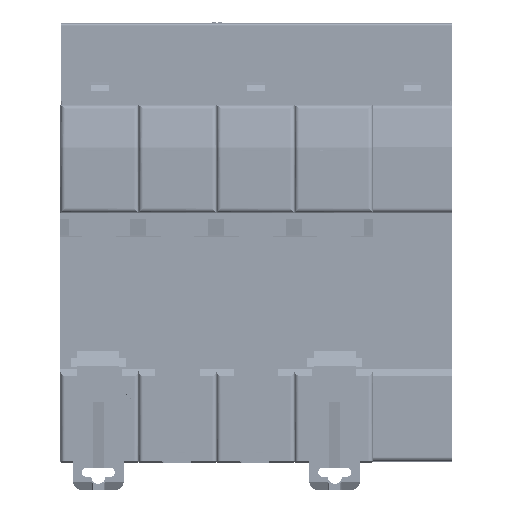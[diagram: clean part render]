
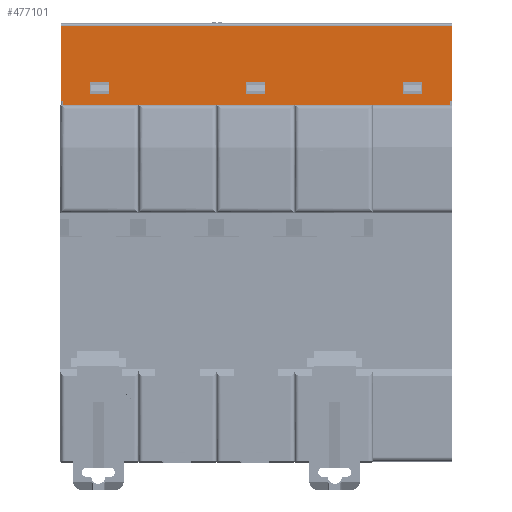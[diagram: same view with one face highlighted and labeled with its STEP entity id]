
A CAD part, top view. The second image highlights one B-rep face of the part: STEP entity #477101.
In plain terms, the highlighted planar face has unit normal (0, 0, 1).
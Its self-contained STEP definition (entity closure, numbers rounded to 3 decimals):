
#19079=DIRECTION('',(-1.,0.,0.));
#19080=VECTOR('',#19079,87.8);
#19081=CARTESIAN_POINT('',(88.35,0.,3.6));
#19082=LINE('',#19081,#19080);
#135087=DIRECTION('',(0.,-1.,0.));
#135088=VECTOR('',#135087,17.);
#135089=CARTESIAN_POINT('',(88.85,18.,3.6));
#135090=LINE('',#135089,#135088);
#135129=DIRECTION('',(1.,0.,0.));
#135130=VECTOR('',#135129,0.5);
#135131=CARTESIAN_POINT('',(88.35,1.,3.6));
#135132=LINE('',#135131,#135130);
#135137=DIRECTION('',(0.,1.,0.));
#135138=VECTOR('',#135137,1.);
#135139=CARTESIAN_POINT('',(0.55,0.,3.6));
#135140=LINE('',#135139,#135138);
#135141=DIRECTION('',(0.,-1.,0.));
#135142=VECTOR('',#135141,17.);
#135143=CARTESIAN_POINT('',(0.05,18.,3.6));
#135144=LINE('',#135143,#135142);
#135145=DIRECTION('',(1.,0.,0.));
#135146=VECTOR('',#135145,88.8);
#135147=CARTESIAN_POINT('',(0.05,18.,3.6));
#135148=LINE('',#135147,#135146);
#135149=DIRECTION('',(0.,1.,0.));
#135150=VECTOR('',#135149,1.);
#135151=CARTESIAN_POINT('',(88.35,0.,3.6));
#135152=LINE('',#135151,#135150);
#135153=DIRECTION('',(0.,-1.,0.));
#135154=VECTOR('',#135153,2.7);
#135155=CARTESIAN_POINT('',(46.5,5.2,3.6));
#135156=LINE('',#135155,#135154);
#135157=DIRECTION('',(1.,0.,0.));
#135158=VECTOR('',#135157,4.4);
#135159=CARTESIAN_POINT('',(42.1,5.2,3.6));
#135160=LINE('',#135159,#135158);
#135161=DIRECTION('',(0.,1.,0.));
#135162=VECTOR('',#135161,2.7);
#135163=CARTESIAN_POINT('',(42.1,2.5,3.6));
#135164=LINE('',#135163,#135162);
#135165=DIRECTION('',(-1.,0.,0.));
#135166=VECTOR('',#135165,4.4);
#135167=CARTESIAN_POINT('',(46.5,2.5,3.6));
#135168=LINE('',#135167,#135166);
#135169=DIRECTION('',(-1.,0.,0.));
#135170=VECTOR('',#135169,4.4);
#135171=CARTESIAN_POINT('',(11.1,2.5,3.6));
#135172=LINE('',#135171,#135170);
#135173=DIRECTION('',(0.,-1.,0.));
#135174=VECTOR('',#135173,2.7);
#135175=CARTESIAN_POINT('',(11.1,5.2,3.6));
#135176=LINE('',#135175,#135174);
#135177=DIRECTION('',(1.,0.,0.));
#135178=VECTOR('',#135177,4.4);
#135179=CARTESIAN_POINT('',(6.7,5.2,3.6));
#135180=LINE('',#135179,#135178);
#135181=DIRECTION('',(0.,1.,0.));
#135182=VECTOR('',#135181,2.7);
#135183=CARTESIAN_POINT('',(6.7,2.5,3.6));
#135184=LINE('',#135183,#135182);
#135185=DIRECTION('',(0.,-1.,0.));
#135186=VECTOR('',#135185,2.7);
#135187=CARTESIAN_POINT('',(82.05,5.2,3.6));
#135188=LINE('',#135187,#135186);
#135189=DIRECTION('',(1.,0.,0.));
#135190=VECTOR('',#135189,4.4);
#135191=CARTESIAN_POINT('',(77.65,5.2,3.6));
#135192=LINE('',#135191,#135190);
#135193=DIRECTION('',(0.,1.,0.));
#135194=VECTOR('',#135193,2.7);
#135195=CARTESIAN_POINT('',(77.65,2.5,3.6));
#135196=LINE('',#135195,#135194);
#135197=DIRECTION('',(-1.,0.,0.));
#135198=VECTOR('',#135197,4.4);
#135199=CARTESIAN_POINT('',(82.05,2.5,3.6));
#135200=LINE('',#135199,#135198);
#135210=DIRECTION('',(1.,0.,0.));
#135211=VECTOR('',#135210,0.5);
#135212=CARTESIAN_POINT('',(0.05,1.,3.6));
#135213=LINE('',#135212,#135211);
#301825=CARTESIAN_POINT('',(0.55,0.,3.6));
#301827=VERTEX_POINT('',#301825);
#301838=CARTESIAN_POINT('',(88.35,0.,3.6));
#301840=VERTEX_POINT('',#301838);
#303673=CARTESIAN_POINT('',(82.05,5.2,3.6));
#303674=CARTESIAN_POINT('',(82.05,2.5,3.6));
#303675=VERTEX_POINT('',#303673);
#303676=VERTEX_POINT('',#303674);
#303677=CARTESIAN_POINT('',(77.65,2.5,3.6));
#303678=VERTEX_POINT('',#303677);
#303679=CARTESIAN_POINT('',(77.65,5.2,3.6));
#303680=VERTEX_POINT('',#303679);
#303681=CARTESIAN_POINT('',(11.1,2.5,3.6));
#303682=CARTESIAN_POINT('',(6.7,2.5,3.6));
#303683=VERTEX_POINT('',#303681);
#303684=VERTEX_POINT('',#303682);
#303685=CARTESIAN_POINT('',(6.7,5.2,3.6));
#303686=VERTEX_POINT('',#303685);
#303687=CARTESIAN_POINT('',(11.1,5.2,3.6));
#303688=VERTEX_POINT('',#303687);
#303721=CARTESIAN_POINT('',(0.05,18.,3.6));
#303722=CARTESIAN_POINT('',(88.85,18.,3.6));
#303723=VERTEX_POINT('',#303721);
#303724=VERTEX_POINT('',#303722);
#303741=CARTESIAN_POINT('',(46.5,5.2,3.6));
#303742=CARTESIAN_POINT('',(46.5,2.5,3.6));
#303743=VERTEX_POINT('',#303741);
#303744=VERTEX_POINT('',#303742);
#303745=CARTESIAN_POINT('',(42.1,2.5,3.6));
#303746=VERTEX_POINT('',#303745);
#303747=CARTESIAN_POINT('',(42.1,5.2,3.6));
#303748=VERTEX_POINT('',#303747);
#304069=CARTESIAN_POINT('',(0.05,1.,3.6));
#304070=VERTEX_POINT('',#304069);
#304071=CARTESIAN_POINT('',(88.85,1.,3.6));
#304072=VERTEX_POINT('',#304071);
#305068=CARTESIAN_POINT('',(0.55,1.,3.6));
#305070=VERTEX_POINT('',#305068);
#305071=CARTESIAN_POINT('',(88.35,1.,3.6));
#305073=VERTEX_POINT('',#305071);
#477052=CARTESIAN_POINT('',(88.85,0.,3.6));
#477053=DIRECTION('',(0.,0.,1.));
#477054=DIRECTION('',(-1.,0.,0.));
#477055=AXIS2_PLACEMENT_3D('',#477052,#477053,#477054);
#477056=PLANE('',#477055);
#477058=ORIENTED_EDGE('',*,*,#477057,.T.);
#477060=ORIENTED_EDGE('',*,*,#477059,.F.);
#477062=ORIENTED_EDGE('',*,*,#477061,.F.);
#477064=ORIENTED_EDGE('',*,*,#477063,.T.);
#477065=ORIENTED_EDGE('',*,*,#477003,.T.);
#477066=ORIENTED_EDGE('',*,*,#477046,.F.);
#477067=ORIENTED_EDGE('',*,*,#477035,.F.);
#477068=ORIENTED_EDGE('',*,*,#329140,.T.);
#477069=EDGE_LOOP('',(#477058,#477060,#477062,#477064,#477065,#477066,#477067,
#477068));
#477070=FACE_OUTER_BOUND('',#477069,.F.);
#477072=ORIENTED_EDGE('',*,*,#477071,.F.);
#477074=ORIENTED_EDGE('',*,*,#477073,.F.);
#477076=ORIENTED_EDGE('',*,*,#477075,.F.);
#477078=ORIENTED_EDGE('',*,*,#477077,.F.);
#477079=EDGE_LOOP('',(#477072,#477074,#477076,#477078));
#477080=FACE_BOUND('',#477079,.F.);
#477082=ORIENTED_EDGE('',*,*,#477081,.F.);
#477084=ORIENTED_EDGE('',*,*,#477083,.F.);
#477086=ORIENTED_EDGE('',*,*,#477085,.F.);
#477088=ORIENTED_EDGE('',*,*,#477087,.F.);
#477089=EDGE_LOOP('',(#477082,#477084,#477086,#477088));
#477090=FACE_BOUND('',#477089,.F.);
#477092=ORIENTED_EDGE('',*,*,#477091,.F.);
#477094=ORIENTED_EDGE('',*,*,#477093,.F.);
#477096=ORIENTED_EDGE('',*,*,#477095,.F.);
#477098=ORIENTED_EDGE('',*,*,#477097,.F.);
#477099=EDGE_LOOP('',(#477092,#477094,#477096,#477098));
#477100=FACE_BOUND('',#477099,.F.);
#477101=ADVANCED_FACE('',(#477070,#477080,#477090,#477100),#477056,.T.);
#329140=EDGE_CURVE('',#301840,#301827,#19082,.T.);
#477003=EDGE_CURVE('',#303724,#304072,#135090,.T.);
#477035=EDGE_CURVE('',#301840,#305073,#135152,.T.);
#477046=EDGE_CURVE('',#305073,#304072,#135132,.T.);
#477057=EDGE_CURVE('',#301827,#305070,#135140,.T.);
#477059=EDGE_CURVE('',#304070,#305070,#135213,.T.);
#477061=EDGE_CURVE('',#303723,#304070,#135144,.T.);
#477063=EDGE_CURVE('',#303723,#303724,#135148,.T.);
#477071=EDGE_CURVE('',#303743,#303744,#135156,.T.);
#477073=EDGE_CURVE('',#303748,#303743,#135160,.T.);
#477075=EDGE_CURVE('',#303746,#303748,#135164,.T.);
#477077=EDGE_CURVE('',#303744,#303746,#135168,.T.);
#477081=EDGE_CURVE('',#303683,#303684,#135172,.T.);
#477083=EDGE_CURVE('',#303688,#303683,#135176,.T.);
#477085=EDGE_CURVE('',#303686,#303688,#135180,.T.);
#477087=EDGE_CURVE('',#303684,#303686,#135184,.T.);
#477091=EDGE_CURVE('',#303675,#303676,#135188,.T.);
#477093=EDGE_CURVE('',#303680,#303675,#135192,.T.);
#477095=EDGE_CURVE('',#303678,#303680,#135196,.T.);
#477097=EDGE_CURVE('',#303676,#303678,#135200,.T.);
